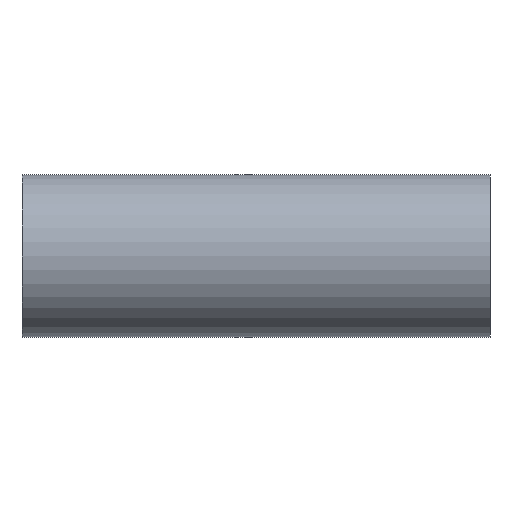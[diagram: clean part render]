
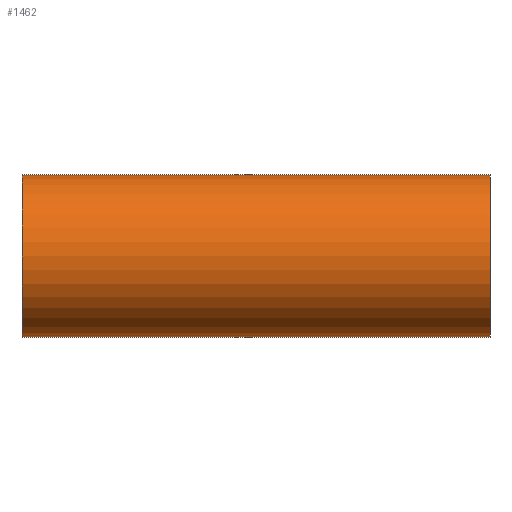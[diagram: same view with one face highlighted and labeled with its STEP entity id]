
A CAD part, front view. The second image highlights one B-rep face of the part: STEP entity #1462.
In plain terms, the highlighted cylindrical face has radius 25.4 mm (diameter 50.8 mm), a partial arc.
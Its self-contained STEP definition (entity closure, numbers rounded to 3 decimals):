
#6 = DIRECTION ( 'NONE',  ( 1., 0., 0. ) ) ;
#13 = EDGE_CURVE ( 'NONE', #1401, #866, #1576, .T. ) ;
#125 = LINE ( 'NONE', #1203, #1361 ) ;
#132 = FACE_OUTER_BOUND ( 'NONE', #1380, .T. ) ;
#136 = CARTESIAN_POINT ( 'NONE',  ( 73., 0., 0. ) ) ;
#168 = ORIENTED_EDGE ( 'NONE', *, *, #730, .T. ) ;
#220 = CARTESIAN_POINT ( 'NONE',  ( -73., 0., 25.4 ) ) ;
#311 = VERTEX_POINT ( 'NONE', #1212 ) ;
#489 = EDGE_CURVE ( 'NONE', #311, #1611, #1754, .T. ) ;
#622 = ORIENTED_EDGE ( 'NONE', *, *, #1717, .F. ) ;
#706 = DIRECTION ( 'NONE',  ( 1., 0., 0. ) ) ;
#716 = ORIENTED_EDGE ( 'NONE', *, *, #13, .T. ) ;
#730 = EDGE_CURVE ( 'NONE', #1611, #1401, #125, .T. ) ;
#777 = CARTESIAN_POINT ( 'NONE',  ( -73., 0., -25.4 ) ) ;
#859 = DIRECTION ( 'NONE',  ( 1., 0., 0. ) ) ;
#866 = VERTEX_POINT ( 'NONE', #1391 ) ;
#961 = CARTESIAN_POINT ( 'NONE',  ( -73., 0., 0. ) ) ;
#978 = ORIENTED_EDGE ( 'NONE', *, *, #489, .T. ) ;
#1203 = CARTESIAN_POINT ( 'NONE',  ( -73., 0., -25.4 ) ) ;
#1212 = CARTESIAN_POINT ( 'NONE',  ( -73., 0., 25.4 ) ) ;
#1216 = DIRECTION ( 'NONE',  ( 1., 0., 0. ) ) ;
#1243 = CARTESIAN_POINT ( 'NONE',  ( 73., 0., -25.4 ) ) ;
#1293 = CYLINDRICAL_SURFACE ( 'NONE', #1830, 25.4 ) ;
#1357 = DIRECTION ( 'NONE',  ( 0., 0., -1. ) ) ;
#1361 = VECTOR ( 'NONE', #706, 1000. ) ;
#1380 = EDGE_LOOP ( 'NONE', ( #622, #978, #168, #716 ) ) ;
#1391 = CARTESIAN_POINT ( 'NONE',  ( 73., 0., 25.4 ) ) ;
#1399 = AXIS2_PLACEMENT_3D ( 'NONE', #1719, #859, #1860 ) ;
#1401 = VERTEX_POINT ( 'NONE', #1243 ) ;
#1457 = LINE ( 'NONE', #220, #1705 ) ;
#1462 = ADVANCED_FACE ( 'NONE', ( #132 ), #1293, .T. ) ;
#1560 = DIRECTION ( 'NONE',  ( -1., 0., 0. ) ) ;
#1576 = CIRCLE ( 'NONE', #1686, 25.4 ) ;
#1602 = DIRECTION ( 'NONE',  ( 0., 0., -1. ) ) ;
#1611 = VERTEX_POINT ( 'NONE', #777 ) ;
#1686 = AXIS2_PLACEMENT_3D ( 'NONE', #136, #1560, #1602 ) ;
#1705 = VECTOR ( 'NONE', #6, 1000. ) ;
#1717 = EDGE_CURVE ( 'NONE', #311, #866, #1457, .T. ) ;
#1719 = CARTESIAN_POINT ( 'NONE',  ( -73., 0., 0. ) ) ;
#1754 = CIRCLE ( 'NONE', #1399, 25.4 ) ;
#1830 = AXIS2_PLACEMENT_3D ( 'NONE', #961, #1216, #1357 ) ;
#1860 = DIRECTION ( 'NONE',  ( 0., 0., -1. ) ) ;
